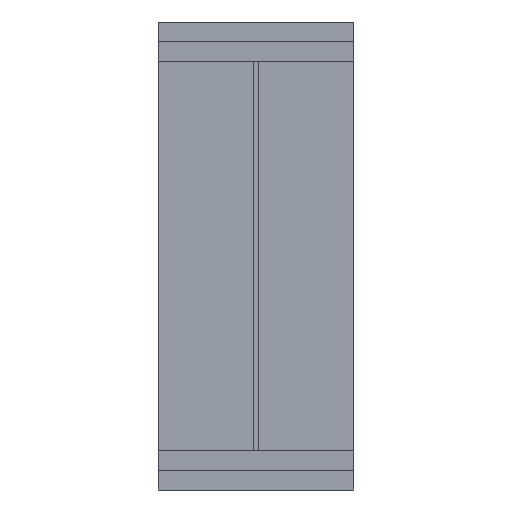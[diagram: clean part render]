
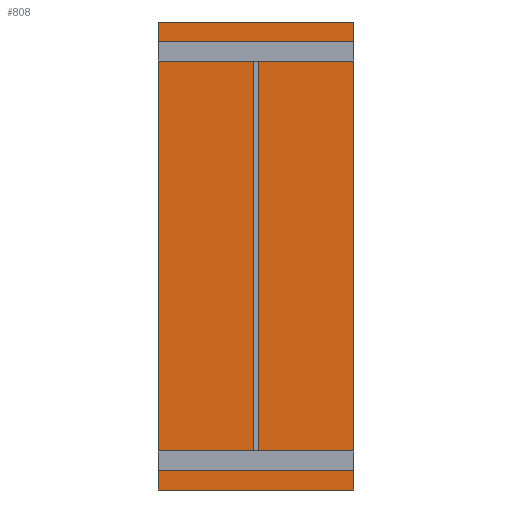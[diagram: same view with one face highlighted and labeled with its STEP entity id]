
A CAD part, front view. The second image highlights one B-rep face of the part: STEP entity #808.
In plain terms, the highlighted planar face has unit normal (0, -1, 0).
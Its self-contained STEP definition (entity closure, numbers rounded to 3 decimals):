
#2 = CARTESIAN_POINT ( 'NONE',  ( -490., 345., 0. ) ) ;
#12 = CARTESIAN_POINT ( 'NONE',  ( 500., 345., 2300. ) ) ;
#22 = CARTESIAN_POINT ( 'NONE',  ( -490., 345., 100. ) ) ;
#36 = CARTESIAN_POINT ( 'NONE',  ( 500., 345., -100. ) ) ;
#67 = CARTESIAN_POINT ( 'NONE',  ( -500., 345., 100. ) ) ;
#76 = CARTESIAN_POINT ( 'NONE',  ( -490., 345., 100. ) ) ;
#81 = VECTOR ( 'NONE', #765, 1000. ) ;
#113 = CARTESIAN_POINT ( 'NONE',  ( -500., 345., 0. ) ) ;
#129 = LINE ( 'NONE', #673, #1160 ) ;
#143 = LINE ( 'NONE', #22, #1123 ) ;
#149 = VERTEX_POINT ( 'NONE', #76 ) ;
#155 = VERTEX_POINT ( 'NONE', #908 ) ;
#172 = LINE ( 'NONE', #579, #1727 ) ;
#201 = CARTESIAN_POINT ( 'NONE',  ( 500., 345., 100. ) ) ;
#210 = EDGE_CURVE ( 'NONE', #1640, #1379, #557, .T. ) ;
#214 = ORIENTED_EDGE ( 'NONE', *, *, #1359, .F. ) ;
#215 = CARTESIAN_POINT ( 'NONE',  ( 490., 345., 2200. ) ) ;
#218 = VECTOR ( 'NONE', #1549, 1000. ) ;
#222 = VECTOR ( 'NONE', #1317, 1000. ) ;
#226 = LINE ( 'NONE', #653, #222 ) ;
#246 = VECTOR ( 'NONE', #436, 1000. ) ;
#273 = VERTEX_POINT ( 'NONE', #348 ) ;
#277 = ORIENTED_EDGE ( 'NONE', *, *, #744, .F. ) ;
#282 = LINE ( 'NONE', #826, #310 ) ;
#288 = ORIENTED_EDGE ( 'NONE', *, *, #815, .F. ) ;
#301 = LINE ( 'NONE', #1247, #246 ) ;
#304 = VERTEX_POINT ( 'NONE', #1572 ) ;
#307 = VERTEX_POINT ( 'NONE', #896 ) ;
#310 = VECTOR ( 'NONE', #1518, 1000. ) ;
#325 = CARTESIAN_POINT ( 'NONE',  ( -500., 345., -100. ) ) ;
#335 = EDGE_CURVE ( 'NONE', #304, #149, #143, .T. ) ;
#348 = CARTESIAN_POINT ( 'NONE',  ( 490., 345., 2100. ) ) ;
#350 = DIRECTION ( 'NONE',  ( -1., 0., 0. ) ) ;
#365 = AXIS2_PLACEMENT_3D ( 'NONE', #1034, #1309, #947 ) ;
#366 = CARTESIAN_POINT ( 'NONE',  ( 490., 345., 2200. ) ) ;
#369 = VECTOR ( 'NONE', #578, 1000. ) ;
#386 = DIRECTION ( 'NONE',  ( 1., 0., 0. ) ) ;
#413 = VECTOR ( 'NONE', #779, 1000. ) ;
#414 = EDGE_CURVE ( 'NONE', #155, #797, #1087, .T. ) ;
#419 = VERTEX_POINT ( 'NONE', #12 ) ;
#429 = EDGE_CURVE ( 'NONE', #498, #419, #301, .T. ) ;
#436 = DIRECTION ( 'NONE',  ( 1., 0., 0. ) ) ;
#444 = VERTEX_POINT ( 'NONE', #1454 ) ;
#468 = LINE ( 'NONE', #201, #1473 ) ;
#480 = EDGE_CURVE ( 'NONE', #444, #498, #282, .T. ) ;
#483 = LINE ( 'NONE', #215, #81 ) ;
#498 = VERTEX_POINT ( 'NONE', #722 ) ;
#518 = ORIENTED_EDGE ( 'NONE', *, *, #993, .F. ) ;
#522 = EDGE_CURVE ( 'NONE', #419, #155, #1567, .T. ) ;
#525 = LINE ( 'NONE', #1171, #1050 ) ;
#526 = VERTEX_POINT ( 'NONE', #1169 ) ;
#539 = CARTESIAN_POINT ( 'NONE',  ( 500., 345., 2100. ) ) ;
#545 = DIRECTION ( 'NONE',  ( -1., 0., 0. ) ) ;
#548 = DIRECTION ( 'NONE',  ( 0., 0., -1. ) ) ;
#556 = CARTESIAN_POINT ( 'NONE',  ( -500., 345., 2100. ) ) ;
#557 = LINE ( 'NONE', #1482, #1154 ) ;
#578 = DIRECTION ( 'NONE',  ( 1., 0., 0. ) ) ;
#579 = CARTESIAN_POINT ( 'NONE',  ( -490., 345., 2100. ) ) ;
#582 = ORIENTED_EDGE ( 'NONE', *, *, #1178, .F. ) ;
#605 = VERTEX_POINT ( 'NONE', #949 ) ;
#619 = VECTOR ( 'NONE', #920, 1000. ) ;
#623 = VECTOR ( 'NONE', #350, 1000. ) ;
#631 = CARTESIAN_POINT ( 'NONE',  ( 500., 345., 2300. ) ) ;
#648 = VECTOR ( 'NONE', #1084, 1000. ) ;
#653 = CARTESIAN_POINT ( 'NONE',  ( 500., 345., -100. ) ) ;
#665 = CARTESIAN_POINT ( 'NONE',  ( 490., 345., 2100. ) ) ;
#673 = CARTESIAN_POINT ( 'NONE',  ( 490., 345., 100. ) ) ;
#677 = CARTESIAN_POINT ( 'NONE',  ( 500., 345., 2100. ) ) ;
#680 = CARTESIAN_POINT ( 'NONE',  ( 500., 345., 2200. ) ) ;
#681 = VERTEX_POINT ( 'NONE', #1660 ) ;
#684 = LINE ( 'NONE', #556, #1161 ) ;
#689 = ORIENTED_EDGE ( 'NONE', *, *, #1299, .F. ) ;
#690 = ORIENTED_EDGE ( 'NONE', *, *, #1308, .F. ) ;
#700 = DIRECTION ( 'NONE',  ( 1., 0., 0. ) ) ;
#703 = CARTESIAN_POINT ( 'NONE',  ( -490., 345., 2100. ) ) ;
#707 = CARTESIAN_POINT ( 'NONE',  ( 500., 345., 0. ) ) ;
#722 = CARTESIAN_POINT ( 'NONE',  ( -500., 345., 2300. ) ) ;
#734 = DIRECTION ( 'NONE',  ( 0., 0., 1. ) ) ;
#744 = EDGE_CURVE ( 'NONE', #797, #273, #483, .T. ) ;
#749 = DIRECTION ( 'NONE',  ( -1., 0., 0. ) ) ;
#761 = VERTEX_POINT ( 'NONE', #1173 ) ;
#765 = DIRECTION ( 'NONE',  ( 0., 0., -1. ) ) ;
#769 = DIRECTION ( 'NONE',  ( 0., 0., 1. ) ) ;
#779 = DIRECTION ( 'NONE',  ( 0., 0., -1. ) ) ;
#797 = VERTEX_POINT ( 'NONE', #366 ) ;
#808 = ADVANCED_FACE ( 'NONE', ( #1455 ), #1166, .F. ) ;
#815 = EDGE_CURVE ( 'NONE', #1155, #304, #1494, .T. ) ;
#826 = CARTESIAN_POINT ( 'NONE',  ( -500., 345., 2300. ) ) ;
#827 = CARTESIAN_POINT ( 'NONE',  ( 490., 345., 0. ) ) ;
#832 = VERTEX_POINT ( 'NONE', #677 ) ;
#847 = LINE ( 'NONE', #707, #218 ) ;
#868 = LINE ( 'NONE', #67, #623 ) ;
#888 = ORIENTED_EDGE ( 'NONE', *, *, #951, .F. ) ;
#896 = CARTESIAN_POINT ( 'NONE',  ( 490., 345., 100. ) ) ;
#897 = LINE ( 'NONE', #113, #1190 ) ;
#908 = CARTESIAN_POINT ( 'NONE',  ( 500., 345., 2200. ) ) ;
#920 = DIRECTION ( 'NONE',  ( -1., 0., 0. ) ) ;
#930 = EDGE_CURVE ( 'NONE', #1307, #761, #847, .T. ) ;
#936 = ORIENTED_EDGE ( 'NONE', *, *, #429, .F. ) ;
#943 = EDGE_CURVE ( 'NONE', #307, #1307, #129, .T. ) ;
#947 = DIRECTION ( 'NONE',  ( 0., 0., 1. ) ) ;
#949 = CARTESIAN_POINT ( 'NONE',  ( -490., 345., 2200. ) ) ;
#951 = EDGE_CURVE ( 'NONE', #605, #444, #1203, .T. ) ;
#959 = DIRECTION ( 'NONE',  ( -1., 0., 0. ) ) ;
#993 = EDGE_CURVE ( 'NONE', #1379, #1155, #897, .T. ) ;
#1034 = CARTESIAN_POINT ( 'NONE',  ( 0., 345., 0. ) ) ;
#1050 = VECTOR ( 'NONE', #1352, 1000. ) ;
#1073 = ORIENTED_EDGE ( 'NONE', *, *, #1550, .F. ) ;
#1084 = DIRECTION ( 'NONE',  ( 0., 0., -1. ) ) ;
#1087 = LINE ( 'NONE', #680, #1319 ) ;
#1090 = EDGE_CURVE ( 'NONE', #1684, #605, #525, .T. ) ;
#1102 = EDGE_CURVE ( 'NONE', #273, #832, #1497, .T. ) ;
#1113 = ORIENTED_EDGE ( 'NONE', *, *, #210, .F. ) ;
#1123 = VECTOR ( 'NONE', #769, 1000. ) ;
#1147 = EDGE_LOOP ( 'NONE', ( #518, #1113, #1224, #1675, #1380, #582, #689, #1584, #277, #1678, #1206, #936, #1513, #888, #1426, #214, #690, #1073, #1365, #288 ) ) ;
#1154 = VECTOR ( 'NONE', #959, 1000. ) ;
#1155 = VERTEX_POINT ( 'NONE', #1553 ) ;
#1160 = VECTOR ( 'NONE', #548, 1000. ) ;
#1161 = VECTOR ( 'NONE', #1264, 1000. ) ;
#1166 = PLANE ( 'NONE',  #365 ) ;
#1169 = CARTESIAN_POINT ( 'NONE',  ( -500., 345., 2100. ) ) ;
#1171 = CARTESIAN_POINT ( 'NONE',  ( -490., 345., 2200. ) ) ;
#1173 = CARTESIAN_POINT ( 'NONE',  ( 500., 345., 0. ) ) ;
#1178 = EDGE_CURVE ( 'NONE', #681, #307, #468, .T. ) ;
#1190 = VECTOR ( 'NONE', #734, 1000. ) ;
#1203 = LINE ( 'NONE', #1484, #619 ) ;
#1206 = ORIENTED_EDGE ( 'NONE', *, *, #522, .F. ) ;
#1220 = LINE ( 'NONE', #539, #648 ) ;
#1224 = ORIENTED_EDGE ( 'NONE', *, *, #1569, .F. ) ;
#1247 = CARTESIAN_POINT ( 'NONE',  ( 500., 345., 2300. ) ) ;
#1264 = DIRECTION ( 'NONE',  ( 0., 0., 1. ) ) ;
#1299 = EDGE_CURVE ( 'NONE', #832, #681, #1220, .T. ) ;
#1307 = VERTEX_POINT ( 'NONE', #827 ) ;
#1308 = EDGE_CURVE ( 'NONE', #1427, #526, #684, .T. ) ;
#1309 = DIRECTION ( 'NONE',  ( 0., 1., 0. ) ) ;
#1317 = DIRECTION ( 'NONE',  ( 0., 0., -1. ) ) ;
#1319 = VECTOR ( 'NONE', #545, 1000. ) ;
#1352 = DIRECTION ( 'NONE',  ( 0., 0., 1. ) ) ;
#1359 = EDGE_CURVE ( 'NONE', #526, #1684, #172, .T. ) ;
#1365 = ORIENTED_EDGE ( 'NONE', *, *, #335, .F. ) ;
#1379 = VERTEX_POINT ( 'NONE', #325 ) ;
#1380 = ORIENTED_EDGE ( 'NONE', *, *, #943, .F. ) ;
#1426 = ORIENTED_EDGE ( 'NONE', *, *, #1090, .F. ) ;
#1427 = VERTEX_POINT ( 'NONE', #1732 ) ;
#1454 = CARTESIAN_POINT ( 'NONE',  ( -500., 345., 2200. ) ) ;
#1455 = FACE_OUTER_BOUND ( 'NONE', #1147, .T. ) ;
#1473 = VECTOR ( 'NONE', #749, 1000. ) ;
#1482 = CARTESIAN_POINT ( 'NONE',  ( 500., 345., -100. ) ) ;
#1484 = CARTESIAN_POINT ( 'NONE',  ( -500., 345., 2200. ) ) ;
#1494 = LINE ( 'NONE', #2, #1588 ) ;
#1497 = LINE ( 'NONE', #665, #369 ) ;
#1513 = ORIENTED_EDGE ( 'NONE', *, *, #480, .F. ) ;
#1518 = DIRECTION ( 'NONE',  ( 0., 0., 1. ) ) ;
#1549 = DIRECTION ( 'NONE',  ( 1., 0., 0. ) ) ;
#1550 = EDGE_CURVE ( 'NONE', #149, #1427, #868, .T. ) ;
#1553 = CARTESIAN_POINT ( 'NONE',  ( -500., 345., 0. ) ) ;
#1567 = LINE ( 'NONE', #631, #413 ) ;
#1569 = EDGE_CURVE ( 'NONE', #761, #1640, #226, .T. ) ;
#1572 = CARTESIAN_POINT ( 'NONE',  ( -490., 345., 0. ) ) ;
#1584 = ORIENTED_EDGE ( 'NONE', *, *, #1102, .F. ) ;
#1588 = VECTOR ( 'NONE', #386, 1000. ) ;
#1640 = VERTEX_POINT ( 'NONE', #36 ) ;
#1660 = CARTESIAN_POINT ( 'NONE',  ( 500., 345., 100. ) ) ;
#1675 = ORIENTED_EDGE ( 'NONE', *, *, #930, .F. ) ;
#1678 = ORIENTED_EDGE ( 'NONE', *, *, #414, .F. ) ;
#1684 = VERTEX_POINT ( 'NONE', #703 ) ;
#1727 = VECTOR ( 'NONE', #700, 1000. ) ;
#1732 = CARTESIAN_POINT ( 'NONE',  ( -500., 345., 100. ) ) ;
